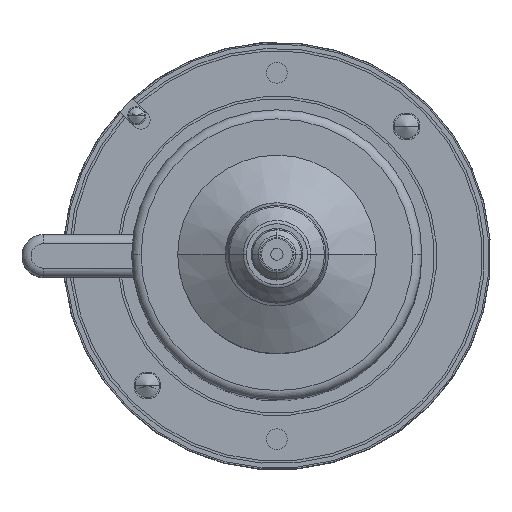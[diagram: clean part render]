
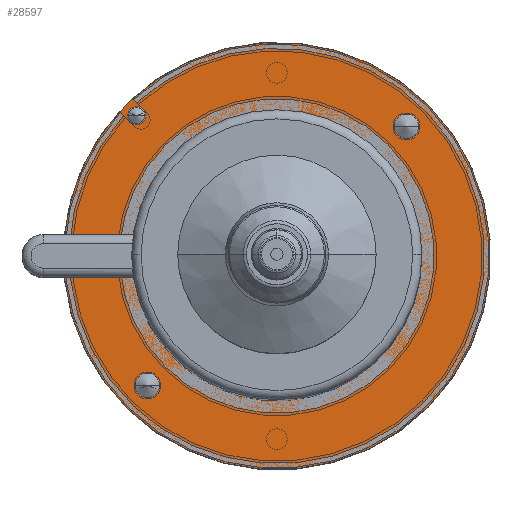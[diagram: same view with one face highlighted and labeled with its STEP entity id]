
A CAD part, top view. The second image highlights one B-rep face of the part: STEP entity #28597.
In plain terms, the highlighted planar face has unit normal (0, 0, 1).
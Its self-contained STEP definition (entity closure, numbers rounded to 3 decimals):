
#74 = PLANE ( 'NONE',  #18624 ) ;
#75 = CARTESIAN_POINT ( 'NONE',  ( 0., 32.5, 32. ) ) ;
#76 = DIRECTION ( 'NONE',  ( 0., 0., -1. ) ) ;
#77 = DIRECTION ( 'NONE',  ( -1., 0., 0. ) ) ;
#2308 = CARTESIAN_POINT ( 'NONE',  ( -46.981, 7., 32. ) ) ;
#2346 = CARTESIAN_POINT ( 'NONE',  ( -46.426, -42.426, 32. ) ) ;
#2423 = CARTESIAN_POINT ( 'NONE',  ( 38.426, 42.426, 32. ) ) ;
#2460 = CARTESIAN_POINT ( 'NONE',  ( -38.426, -42.426, 32. ) ) ;
#2532 = CARTESIAN_POINT ( 'NONE',  ( -48.962, 45.962, 32. ) ) ;
#2602 = CARTESIAN_POINT ( 'NONE',  ( -69.649, -7., 32. ) ) ;
#2617 = CARTESIAN_POINT ( 'NONE',  ( 47.5, 0., 32. ) ) ;
#2676 = CARTESIAN_POINT ( 'NONE',  ( -46.981, -7., 32. ) ) ;
#2706 = CARTESIAN_POINT ( 'NONE',  ( -69.649, 7., 32. ) ) ;
#2729 = CARTESIAN_POINT ( 'NONE',  ( 46.426, 42.426, 32. ) ) ;
#2846 = CARTESIAN_POINT ( 'NONE',  ( -42.962, 45.962, 32. ) ) ;
#7562 = FACE_OUTER_BOUND ( 'NONE', #20948, .T. ) ;
#7565 = FACE_BOUND ( 'NONE', #16481, .T. ) ;
#7567 = FACE_BOUND ( 'NONE', #27072, .T. ) ;
#7569 = FACE_BOUND ( 'NONE', #20308, .T. ) ;
#12302 = AXIS2_PLACEMENT_3D ( 'NONE', #26008, #26120, #26014 ) ;
#13313 = CIRCLE ( 'NONE', #15500, 47.5 ) ;
#13328 = CIRCLE ( 'NONE', #15507, 4. ) ;
#13331 = CIRCLE ( 'NONE', #15508, 4. ) ;
#14797 = DIRECTION ( 'NONE',  ( 1., 0., 0. ) ) ;
#14813 = DIRECTION ( 'NONE',  ( -1., 0., 0. ) ) ;
#14814 = DIRECTION ( 'NONE',  ( 0., 0., 1. ) ) ;
#14820 = CARTESIAN_POINT ( 'NONE',  ( -45.962, 45.962, 32. ) ) ;
#14829 = DIRECTION ( 'NONE',  ( 0., 0., 1. ) ) ;
#14834 = CARTESIAN_POINT ( 'NONE',  ( 42.426, 42.426, 32. ) ) ;
#14860 = DIRECTION ( 'NONE',  ( -1., 0., 0. ) ) ;
#14866 = CARTESIAN_POINT ( 'NONE',  ( 0., 0., 32. ) ) ;
#14869 = DIRECTION ( 'NONE',  ( 0., 0., 1. ) ) ;
#14870 = CARTESIAN_POINT ( 'NONE',  ( -42.426, -42.426, 32. ) ) ;
#14875 = DIRECTION ( 'NONE',  ( -1., 0., 0. ) ) ;
#14881 = DIRECTION ( 'NONE',  ( -1., 0., 0. ) ) ;
#14882 = DIRECTION ( 'NONE',  ( -1., 0., 0. ) ) ;
#14962 = DIRECTION ( 'NONE',  ( 0., 0., 1. ) ) ;
#14972 = DIRECTION ( 'NONE',  ( -1., 0., 0. ) ) ;
#14989 = DIRECTION ( 'NONE',  ( 0., 0., 1. ) ) ;
#14996 = DIRECTION ( 'NONE',  ( 0., 0., 1. ) ) ;
#15000 = DIRECTION ( 'NONE',  ( 1., 0., 0. ) ) ;
#15004 = CARTESIAN_POINT ( 'NONE',  ( 0., -7., 32. ) ) ;
#15008 = DIRECTION ( 'NONE',  ( -1., 0., 0. ) ) ;
#15023 = CARTESIAN_POINT ( 'NONE',  ( -42.426, -42.426, 32. ) ) ;
#15060 = DIRECTION ( 'NONE',  ( 0., 0., 1. ) ) ;
#15071 = CARTESIAN_POINT ( 'NONE',  ( 42.426, 42.426, 32. ) ) ;
#15078 = CARTESIAN_POINT ( 'NONE',  ( 0., 0., 32. ) ) ;
#15105 = CARTESIAN_POINT ( 'NONE',  ( -45.962, 45.962, 32. ) ) ;
#15106 = DIRECTION ( 'NONE',  ( 0., 0., 1. ) ) ;
#15402 = EDGE_CURVE ( 'NONE', #20041, #19643, #16244, .T. ) ;
#15403 = EDGE_CURVE ( 'NONE', #20041, #19937, #16248, .T. ) ;
#15436 = EDGE_CURVE ( 'NONE', #20181, #19867, #16285, .T. ) ;
#15437 = EDGE_CURVE ( 'NONE', #20011, #19937, #16284, .T. ) ;
#15438 = EDGE_CURVE ( 'NONE', #20011, #19952, #16288, .T. ) ;
#15450 = EDGE_CURVE ( 'NONE', #19681, #19795, #16308, .T. ) ;
#15451 = EDGE_CURVE ( 'NONE', #19758, #20064, #16309, .T. ) ;
#15453 = EDGE_CURVE ( 'NONE', #19867, #20181, #16312, .T. ) ;
#15476 = EDGE_CURVE ( 'NONE', #19952, #19643, #13313, .T. ) ;
#15488 = EDGE_CURVE ( 'NONE', #20064, #19758, #13328, .T. ) ;
#15490 = EDGE_CURVE ( 'NONE', #19795, #19681, #13331, .T. ) ;
#15500 = AXIS2_PLACEMENT_3D ( 'NONE', #15078, #14996, #15008 ) ;
#15507 = AXIS2_PLACEMENT_3D ( 'NONE', #15071, #15060, #15000 ) ;
#15508 = AXIS2_PLACEMENT_3D ( 'NONE', #15023, #14962, #14860 ) ;
#16244 = LINE ( 'NONE', #26001, #16246 ) ;
#16246 = VECTOR ( 'NONE', #26004, 1000. ) ;
#16248 = CIRCLE ( 'NONE', #12302, 70. ) ;
#16284 = LINE ( 'NONE', #15004, #16286 ) ;
#16285 = CIRCLE ( 'NONE', #30774, 3. ) ;
#16286 = VECTOR ( 'NONE', #14881, 1000. ) ;
#16288 = CIRCLE ( 'NONE', #30776, 47.5 ) ;
#16308 = CIRCLE ( 'NONE', #30810, 4. ) ;
#16309 = CIRCLE ( 'NONE', #30786, 4. ) ;
#16312 = CIRCLE ( 'NONE', #31318, 3. ) ;
#16481 = EDGE_LOOP ( 'NONE', ( #22329, #22330 ) ) ;
#18624 = AXIS2_PLACEMENT_3D ( 'NONE', #75, #76, #77 ) ;
#19643 = VERTEX_POINT ( 'NONE', #2308 ) ;
#19681 = VERTEX_POINT ( 'NONE', #2346 ) ;
#19758 = VERTEX_POINT ( 'NONE', #2423 ) ;
#19795 = VERTEX_POINT ( 'NONE', #2460 ) ;
#19867 = VERTEX_POINT ( 'NONE', #2532 ) ;
#19937 = VERTEX_POINT ( 'NONE', #2602 ) ;
#19952 = VERTEX_POINT ( 'NONE', #2617 ) ;
#20011 = VERTEX_POINT ( 'NONE', #2676 ) ;
#20041 = VERTEX_POINT ( 'NONE', #2706 ) ;
#20064 = VERTEX_POINT ( 'NONE', #2729 ) ;
#20181 = VERTEX_POINT ( 'NONE', #2846 ) ;
#20308 = EDGE_LOOP ( 'NONE', ( #22333, #22334 ) ) ;
#20948 = EDGE_LOOP ( 'NONE', ( #22324, #22325, #22326, #22327, #22328 ) ) ;
#22324 = ORIENTED_EDGE ( 'NONE', *, *, #15438, .F. ) ;
#22325 = ORIENTED_EDGE ( 'NONE', *, *, #15437, .T. ) ;
#22326 = ORIENTED_EDGE ( 'NONE', *, *, #15403, .F. ) ;
#22327 = ORIENTED_EDGE ( 'NONE', *, *, #15402, .T. ) ;
#22328 = ORIENTED_EDGE ( 'NONE', *, *, #15476, .F. ) ;
#22329 = ORIENTED_EDGE ( 'NONE', *, *, #15453, .F. ) ;
#22330 = ORIENTED_EDGE ( 'NONE', *, *, #15436, .F. ) ;
#22331 = ORIENTED_EDGE ( 'NONE', *, *, #15488, .F. ) ;
#22332 = ORIENTED_EDGE ( 'NONE', *, *, #15451, .F. ) ;
#22333 = ORIENTED_EDGE ( 'NONE', *, *, #15450, .F. ) ;
#22334 = ORIENTED_EDGE ( 'NONE', *, *, #15490, .F. ) ;
#26001 = CARTESIAN_POINT ( 'NONE',  ( 0., 7., 32. ) ) ;
#26004 = DIRECTION ( 'NONE',  ( 1., 0., 0. ) ) ;
#26008 = CARTESIAN_POINT ( 'NONE',  ( 0., 0., 32. ) ) ;
#26014 = DIRECTION ( 'NONE',  ( -1., 0., 0. ) ) ;
#26120 = DIRECTION ( 'NONE',  ( 0., 0., -1. ) ) ;
#27072 = EDGE_LOOP ( 'NONE', ( #22331, #22332 ) ) ;
#28597 = ADVANCED_FACE ( 'NONE', ( #7562, #7565, #7567, #7569 ), #74, .F. ) ;
#30774 = AXIS2_PLACEMENT_3D ( 'NONE', #15105, #14989, #14972 ) ;
#30776 = AXIS2_PLACEMENT_3D ( 'NONE', #14866, #15106, #14875 ) ;
#30786 = AXIS2_PLACEMENT_3D ( 'NONE', #14834, #14829, #14797 ) ;
#30810 = AXIS2_PLACEMENT_3D ( 'NONE', #14870, #14869, #14882 ) ;
#31318 = AXIS2_PLACEMENT_3D ( 'NONE', #14820, #14814, #14813 ) ;
